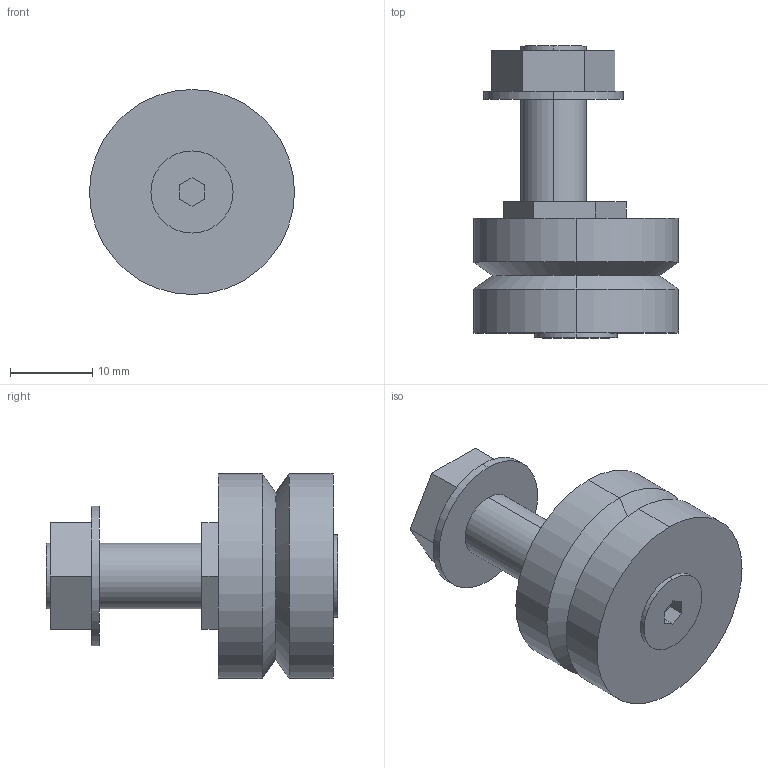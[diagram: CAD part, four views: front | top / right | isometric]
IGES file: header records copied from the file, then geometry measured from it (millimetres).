
Start section: 3D InterOp IGES (Version 21 0 1), Spatial Corp. Copyright (c) 1999-2007.
Global section: file name: RLJ25DENS.igs; native system: Spatial Corp.; preprocessor: 3D InterOp GENERIC/IGES 3.0; author: Noname; organization: Noname; date: 20220627.163652; units: millimetre
Bounding box: 25 x 35.6 x 25 mm (x, y, z)
Surface area: 3351.4 mm2 (no closed solid volume)
Topology: 0 solids, 0 shells, 50 faces, 228 edges, 228 vertices
Faces by surface type: extrusion 34, revolution 16
